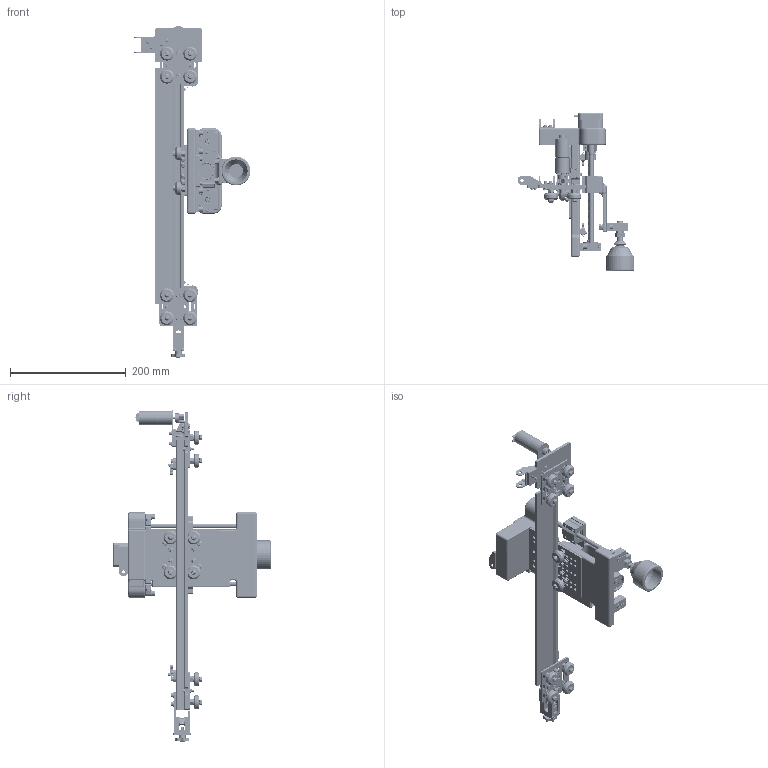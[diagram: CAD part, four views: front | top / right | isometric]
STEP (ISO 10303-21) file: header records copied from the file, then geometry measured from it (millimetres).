
FILE_DESCRIPTION(/* description */ (''),/* implementation_level */ '2;1');
FILE_NAME(/* name */ 'Y and Z Axes.stp',/* time_stamp */ '2026-11-15T11:20:25+02:00',/* author */ ('Ahmed'),/* organization */ (''),/* preprocessor_version */ 'ST-DEVELOPER v20.2',/* originating_system */ 'Autodesk Inventor 2027',/* authorisation */ '');
FILE_SCHEMA (('AUTOMOTIVE_DESIGN { 1 0 10303 214 3 1 1 }'));
Products named in the file (66): Z-Axis; 2020aluminum_extrusion_black; 17HM15-0904S; Flexible_Shaft_Coupling_5_to_8mm v7; Z Bracket; Trapezoidal lead screw tr8x8-4; t8_nut_housing; SCS8UU Block, Linear Bearing, 8mm; M4 Insert; Linear Bearing Spacer; T8 nut; SK12 SHAFT HOLDER; Suction Cup Fixation; Suction; Suction-ohne-nippel; nippel; ISO 4762 - M4 x 8; Product Base; IPCF06-02; body; release_ring; Document; Drag Chain Support; Limit Switch Spacer; 127x88 Gantry; ISO 4032 - M5; KP08 Pillow block bearing 08mm diameter; Bearing Spacer; ISO 4762 - M4 x 16; Linear Guide Rods; SHF8; SHF8_MIR; SK8 Linear Shaft Support, 8mm v4; Document_1; ISO 4762 - M5 x 20; ISO 4762 - M5 x 16; motor holder bracket; Motor; GT2 Pulley Assembly With Grub Screws; ISO 7045 - M2 x 10 - 4.8 - Z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
Assembly tree (230 placements, depth 3):
  Z-Axis
    2020aluminum_extrusion_black
    SCS8UU Block, Linear Bearing, 8mm  x2
    17HM15-0904S
    Flexible_Shaft_Coupling_5_to_8mm v7
    Z Bracket
    Trapezoidal lead screw tr8x8-4
    t8_nut_housing
    M4 Insert  x2
    ISO 4762 - M3 x 16  x6
    Linear Bearing Spacer  x2
    T8 nut
    ISO 4762 - M3 x 12  x11
    SK12 SHAFT HOLDER
    Suction Cup Fixation
    Suction
      Suction-ohne-nippel
      nippel
    ISO 4762 - M4 x 12  x10
    ISO 4762 - M4 x 8  x2
    ISO 4762 - M4 x 16  x5
    ISO 4762 - M5 x 20  x14
    Product Base
    IPCF06-02
      body
      release_ring
    ISO 4032 - M5  x10
    ANSI B18.22M - 5 N  x22
    Limit Switch Spacer  x2
    Document  x2
    ANSI B18.22M - 3 N  x17
    Gantry_Plate_65x65  x2
    Drag Chain Support
    ANSI B18.22M - 2 N  x10
    NO/NC Bump Switch  x3
    ISO 4032 - M2  x8
    ISO 4762 - M2 x 16  x8
    127x88 Gantry
    V-Pulley  x12
    KP08 Pillow block bearing 08mm diameter
    Bearing Spacer
    Linear Guide Rods  x2
    SHF8
    SHF8_MIR
    SK8 Linear Shaft Support, 8mm v4  x2
    Document_1  x8
    ISO 4762 - M5 x 16  x4
    motor holder bracket
    Slider T-Nut for 2020 - M3  x4
    Motor
    GT2 Pulley Assembly With Grub Screws
    ISO 7045 - M2 x 10 - 4.8 - Z  x2
    DC Motor Bracket Spacer  x2
    Slider T-Nut for 2020 - M5  x4
    ISO 4762 - M5 x 10  x4
    ISO 4032 - M3  x7
    2020 Belt Tensioner G_K
    M4 T slot nut - 2020 Creality  x2
    ANSI B18.22M - 4 N  x2
    Bloc 02
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Bounding box: 201.98 x 271.33 x 573.15 mm (x, y, z)
Volume: 1297146.9 mm3; surface area: 562314.1 mm2
Topology: 364 solids, 366 shells, 9205 faces, 23326 edges, 15222 vertices
Faces by surface type: plane 3724, cylinder 3380, bspline 1116, cone 575, torus 333, sphere 77
Full cylindrical faces by diameter (mm): 0.25 x12, 0.559 x4, 1 x6, 1.5 x2, 1.567 x8, 1.615 x4, 1.7 x8, 1.783 x2, 1.8 x12, 2 x10, 2.3 x6, 2.35 x46, 2.4 x4, 2.459 x45, 2.5 x36, 2.529 x48, 2.6 x2, 3 x119, 3.091 x26, 3.2 x6, 3.242 x36, 3.3 x1, 3.332 x96, 3.5 x37, 3.684 x2, 3.8 x8, 3.961 x80, 4 x110, 4.1 x4, 4.109 x110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
Entity records: 288969 total; most frequent: CARTESIAN_POINT 175181, ORIENTED_EDGE 23772, DIRECTION 21723, EDGE_CURVE 11886, AXIS2_PLACEMENT_3D 8079, VERTEX_POINT 7768, LINE 5565, VECTOR 5565
